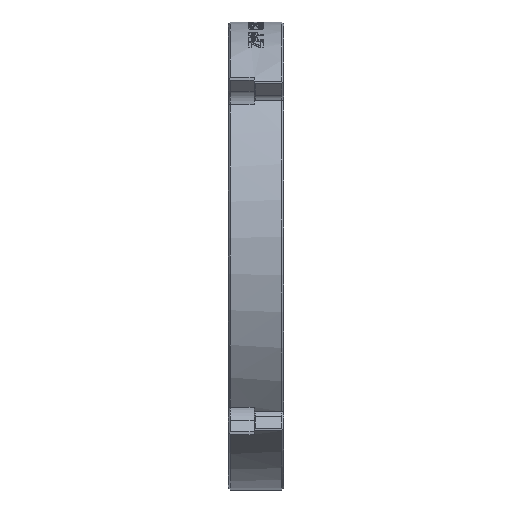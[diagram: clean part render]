
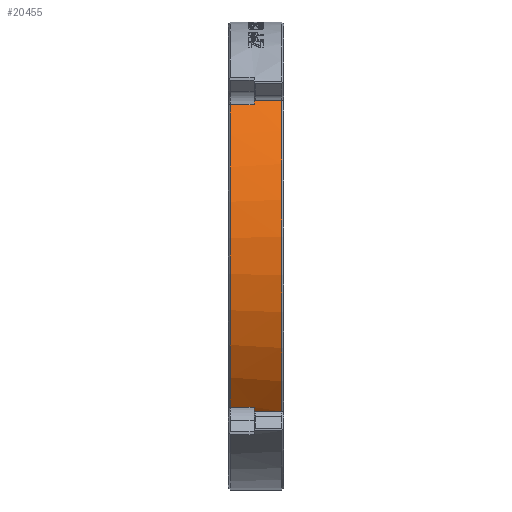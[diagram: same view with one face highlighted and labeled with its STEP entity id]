
A CAD part, left-side view. The second image highlights one B-rep face of the part: STEP entity #20455.
In plain terms, the highlighted cylindrical face has radius 127.5 mm (diameter 255 mm), a partial arc.
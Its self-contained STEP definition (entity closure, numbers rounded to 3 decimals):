
#7761=CARTESIAN_POINT('',(0.,16.,0.));
#7762=DIRECTION('',(0.,-1.,0.));
#7763=DIRECTION('',(-0.763,0.,-0.646));
#7764=AXIS2_PLACEMENT_3D('',#7761,#7762,#7763);
#7826=CARTESIAN_POINT('',(-97.328,29.,82.362));
#7828=CARTESIAN_POINT('',(0.,29.,
0.));
#7829=DIRECTION('',(0.,-1.,0.));
#7830=DIRECTION('',(-0.763,0.,0.646));
#7831=AXIS2_PLACEMENT_3D('',#7828,#7829,#7830);
#7855=DIRECTION('',(0.,1.,0.));
#7856=VECTOR('',#7855,15.);
#7857=CARTESIAN_POINT('',(-95.276,1.,
-84.728));
#7858=LINE('',#7857,#7856);
#7859=DIRECTION('',(0.,1.,0.));
#7860=VECTOR('',#7859,13.);
#7861=CARTESIAN_POINT('',(-97.328,16.,-82.362));
#7862=LINE('',#7861,#7860);
#7863=DIRECTION('',(0.,-1.,0.));
#7864=VECTOR('',#7863,13.);
#7865=CARTESIAN_POINT('',(-97.328,29.,82.362));
#7866=LINE('',#7865,#7864);
#7867=DIRECTION('',(0.,-1.,0.));
#7868=VECTOR('',#7867,15.);
#7869=CARTESIAN_POINT('',(-95.276,16.,84.728));
#7870=LINE('',#7869,#7868);
#7909=CARTESIAN_POINT('',(0.,1.,
0.));
#7910=DIRECTION('',(0.,1.,0.));
#7911=DIRECTION('',(-0.747,0.,-0.665));
#7912=AXIS2_PLACEMENT_3D('',#7909,#7910,#7911);
#7952=CARTESIAN_POINT('',(0.,16.,0.));
#7953=DIRECTION('',(0.,-1.,0.));
#7954=DIRECTION('',(-0.747,0.,0.665));
#7955=AXIS2_PLACEMENT_3D('',#7952,#7953,#7954);
#10043=CARTESIAN_POINT('',(-97.328,16.,-82.362));
#10044=VERTEX_POINT('',#10043);
#10045=CARTESIAN_POINT('',(-95.276,16.,-84.728));
#10046=VERTEX_POINT('',#10045);
#10061=VERTEX_POINT('',#7826);
#10062=CARTESIAN_POINT('',(-97.328,29.,
-82.362));
#10063=VERTEX_POINT('',#10062);
#10068=CARTESIAN_POINT('',(-97.328,16.,82.362));
#10069=VERTEX_POINT('',#10068);
#10072=CARTESIAN_POINT('',(-95.276,1.,
-84.728));
#10073=VERTEX_POINT('',#10072);
#10074=CARTESIAN_POINT('',(-95.276,16.,84.728));
#10075=VERTEX_POINT('',#10074);
#10076=CARTESIAN_POINT('',(-95.276,1.,
84.728));
#10077=VERTEX_POINT('',#10076);
#20435=CARTESIAN_POINT('',(0.,30.,0.));
#20436=DIRECTION('',(0.,1.,0.));
#20437=DIRECTION('',(0.,0.,-1.));
#20438=AXIS2_PLACEMENT_3D('',#20435,#20436,#20437);
#20439=CYLINDRICAL_SURFACE('',#20438,127.5);
#20441=ORIENTED_EDGE('',*,*,#20440,.T.);
#20442=ORIENTED_EDGE('',*,*,#20309,.F.);
#20444=ORIENTED_EDGE('',*,*,#20443,.T.);
#20445=ORIENTED_EDGE('',*,*,#20394,.F.);
#20446=ORIENTED_EDGE('',*,*,#20424,.T.);
#20448=ORIENTED_EDGE('',*,*,#20447,.F.);
#20450=ORIENTED_EDGE('',*,*,#20449,.T.);
#20452=ORIENTED_EDGE('',*,*,#20451,.F.);
#20453=EDGE_LOOP('',(#20441,#20442,#20444,#20445,#20446,#20448,#20450,#20452));
#20454=FACE_OUTER_BOUND('',#20453,.F.);
#20455=ADVANCED_FACE('',(#20454),#20439,.T.);
#7765=CIRCLE('',#7764,127.5);
#7832=CIRCLE('',#7831,127.5);
#7913=CIRCLE('',#7912,127.5);
#7956=CIRCLE('',#7955,127.5);
#20309=EDGE_CURVE('',#10044,#10046,#7765,.T.);
#20394=EDGE_CURVE('',#10061,#10063,#7832,.T.);
#20424=EDGE_CURVE('',#10061,#10069,#7866,.T.);
#20440=EDGE_CURVE('',#10073,#10046,#7858,.T.);
#20443=EDGE_CURVE('',#10044,#10063,#7862,.T.);
#20447=EDGE_CURVE('',#10075,#10069,#7956,.T.);
#20449=EDGE_CURVE('',#10075,#10077,#7870,.T.);
#20451=EDGE_CURVE('',#10073,#10077,#7913,.T.);
